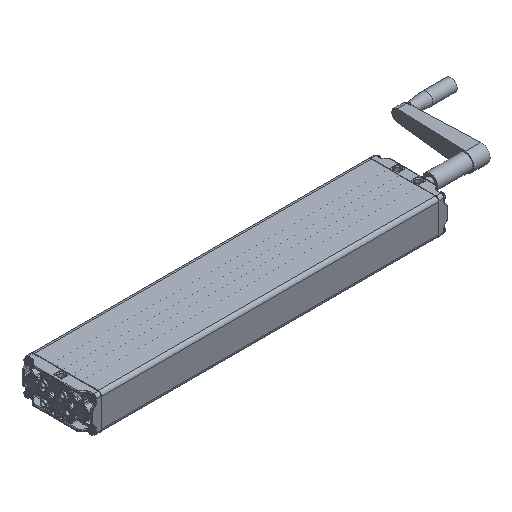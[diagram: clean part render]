
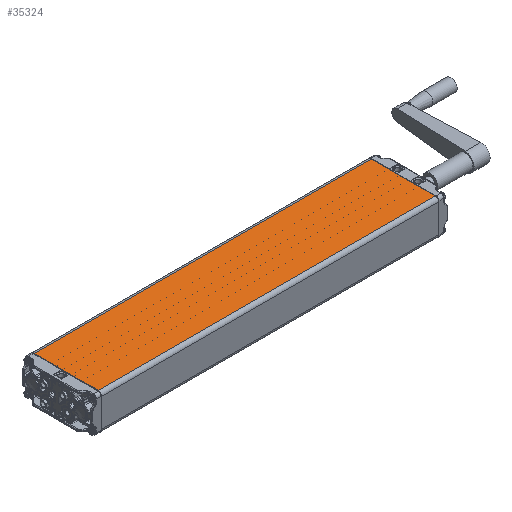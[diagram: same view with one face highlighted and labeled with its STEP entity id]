
A CAD part, isometric view. The second image highlights one B-rep face of the part: STEP entity #35324.
In plain terms, the highlighted planar face has unit normal (0, 0, 1).
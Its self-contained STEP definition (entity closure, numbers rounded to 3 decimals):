
#3673=LINE('',#75925,#5032);
#3674=LINE('',#75928,#5033);
#3675=LINE('',#75930,#5034);
#3676=LINE('',#75932,#5035);
#5032=VECTOR('',#43127,1000.);
#5033=VECTOR('',#43128,1000.);
#5034=VECTOR('',#43129,1000.);
#5035=VECTOR('',#43130,1000.);
#10645=ORIENTED_EDGE('',*,*,#16868,.T.);
#10646=ORIENTED_EDGE('',*,*,#16869,.T.);
#10647=ORIENTED_EDGE('',*,*,#16870,.T.);
#10648=ORIENTED_EDGE('',*,*,#16871,.T.);
#16868=EDGE_CURVE('',#20238,#20239,#3673,.F.);
#16869=EDGE_CURVE('',#20239,#20240,#3674,.T.);
#16870=EDGE_CURVE('',#20240,#20241,#3675,.T.);
#16871=EDGE_CURVE('',#20241,#20238,#3676,.F.);
#20238=VERTEX_POINT('',#75926);
#20239=VERTEX_POINT('',#75927);
#20240=VERTEX_POINT('',#75929);
#20241=VERTEX_POINT('',#75931);
#23921=EDGE_LOOP('',(#10645,#10646,#10647,#10648));
#26041=FACE_BOUND('',#23921,.T.);
#27239=PLANE('',#37774);
#35324=ADVANCED_FACE('',(#26041),#27239,.T.);
#37774=AXIS2_PLACEMENT_3D('',#75924,#43125,#43126);
#43125=DIRECTION('',(0.,0.,1.));
#43126=DIRECTION('',(1.,0.,0.));
#43127=DIRECTION('',(0.,-1.,0.));
#43128=DIRECTION('',(-1.,0.,0.));
#43129=DIRECTION('',(0.,-1.,0.));
#43130=DIRECTION('',(-1.,0.,0.));
#75924=CARTESIAN_POINT('',(60.,570.5,30.));
#75925=CARTESIAN_POINT('',(54.,570.5,30.));
#75926=CARTESIAN_POINT('',(54.,0.5,30.));
#75927=CARTESIAN_POINT('',(54.,570.,30.));
#75928=CARTESIAN_POINT('',(60.,570.,30.));
#75929=CARTESIAN_POINT('',(-54.,570.,30.));
#75930=CARTESIAN_POINT('',(-54.,570.5,30.));
#75931=CARTESIAN_POINT('',(-54.,0.5,30.));
#75932=CARTESIAN_POINT('',(54.,0.5,30.));
